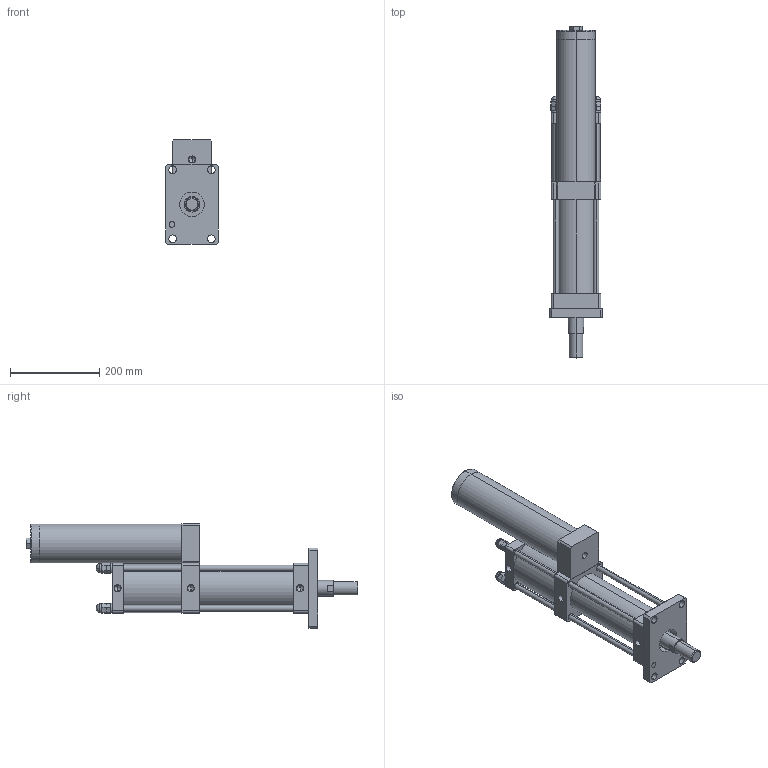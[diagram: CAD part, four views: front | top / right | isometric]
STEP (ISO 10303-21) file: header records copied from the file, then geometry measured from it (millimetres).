
FILE_DESCRIPTION (( 'STEP AP203' ), '1' );
FILE_NAME ('CPT-80-150-5-8T.STEP', '2016-03-11T03:11:27', ( 'WIN' ), ( '' ), 'SwSTEP 2.0', 'SolidWorks 2014', '' );
FILE_SCHEMA (( 'CONFIG_CONTROL_DESIGN' ));
Length unit declared in the file: millimetre
Products named in the file (1): CPT-80-150-5-8T
Bounding box: 118 x 745 x 235 mm (x, y, z)
Volume: 5083827.1 mm3; surface area: 633461.7 mm2
Topology: 17 solids, 17 shells, 389 faces, 959 edges, 560 vertices
Faces by surface type: plane 181, cylinder 90, bspline 48, torus 46, cone 24
Entity records: 12577 total; most frequent: CARTESIAN_POINT 3667, DIRECTION 1874, ORIENTED_EDGE 1786, EDGE_CURVE 893, AXIS2_PLACEMENT_3D 687, VERTEX_POINT 560, VECTOR 500, LINE 500
